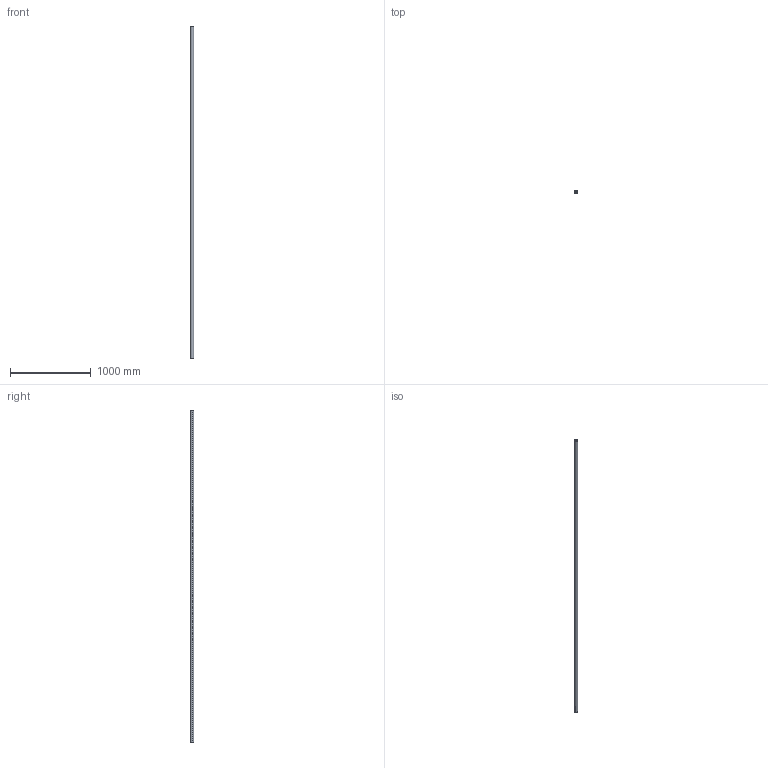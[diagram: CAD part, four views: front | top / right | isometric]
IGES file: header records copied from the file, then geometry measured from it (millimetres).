
Start section: SolidWorks IGES file using analytic representation for surfaces
Global section: file name: C:\Users\IanO\Desktop\L1771_v2\L1771.40_v2\L1771.40_v2_20230705_IGES\L1771.40-4100.igs; native system: SolidWorks 2019; preprocessor: SolidWorks 2019; author: IanO; date: 230705.162313; units: millimetre
Bounding box: 40 x 40 x 4100 mm (x, y, z)
Surface area: 877157.8 mm2 (no closed solid volume)
Topology: 0 solids, 0 shells, 6 faces, 272 edges, 272 vertices
Faces by surface type: revolution 4, bspline 2
